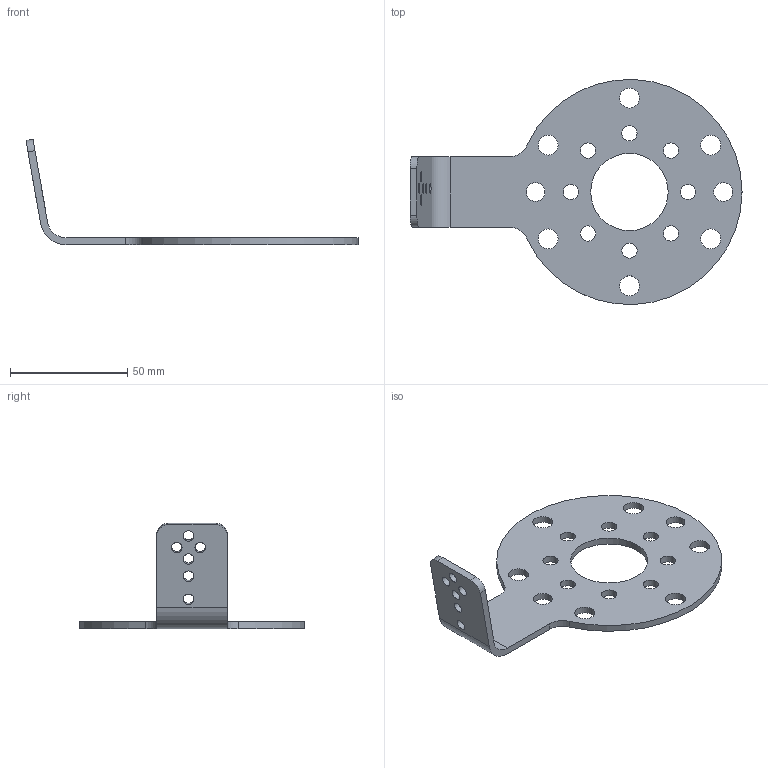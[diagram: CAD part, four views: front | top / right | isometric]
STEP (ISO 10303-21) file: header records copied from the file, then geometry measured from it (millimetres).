
FILE_DESCRIPTION(/* description */ (''),/* implementation_level */ '2;1');
FILE_NAME(/* name */ '153-13735_MA 45-95_145 KUKA iisy.stp',/* time_stamp */ '2025-02-10T08:44:56+01:00',/* author */ ('SensoPart'),/* organization */ ('SensoPart'),/* preprocessor_version */ 'ST-DEVELOPER v19.2',/* originating_system */ 'Autodesk Inventor 2023',/* authorisation */ '');
FILE_SCHEMA (('AUTOMOTIVE_DESIGN { 1 0 10303 214 3 1 1 }'));
Length unit declared in the file: millimetre
Products named in the file (1): GH-ENG-0046093
Bounding box: 141.54 x 95.92 x 45.03 mm (x, y, z)
Volume: 23804.6 mm3; surface area: 18920 mm2
Topology: 1 solids, 1 shells, 37 faces, 105 edges, 71 vertices
Faces by surface type: cylinder 30, plane 7
Full cylindrical faces by diameter (mm): 4.5 x6, 6.5 x7, 6.53 x1, 8 x2, 8.5 x6, 33 x1
Entity records: 1394 total; most frequent: DIRECTION 241, CARTESIAN_POINT 214, ORIENTED_EDGE 210, EDGE_CURVE 105, AXIS2_PLACEMENT_3D 98, EDGE_LOOP 83, VERTEX_POINT 70, CIRCLE 60
